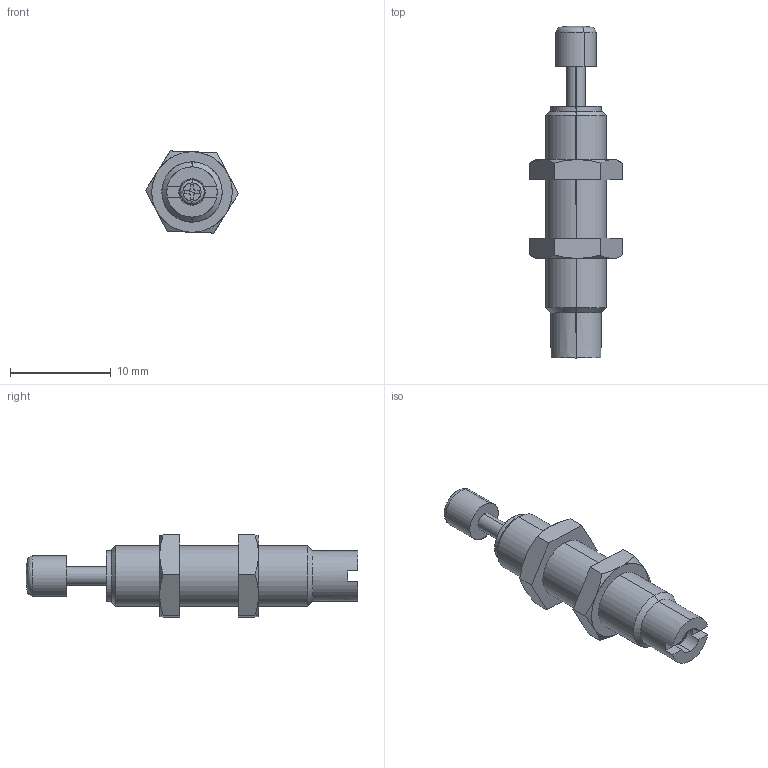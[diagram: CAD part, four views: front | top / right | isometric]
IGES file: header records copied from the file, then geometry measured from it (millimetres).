
Start section: SolidWorks IGES file using analytic representation for surfaces
Bounding box: 9.23 x 33 x 8.17 mm (x, y, z)
Surface area: 926.5 mm2 (no closed solid volume)
Topology: 0 solids, 0 shells, 64 faces, 792 edges, 791 vertices
Faces by surface type: revolution 32, bspline 32
